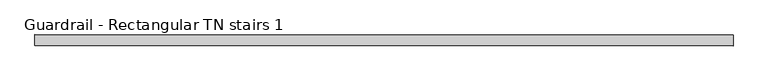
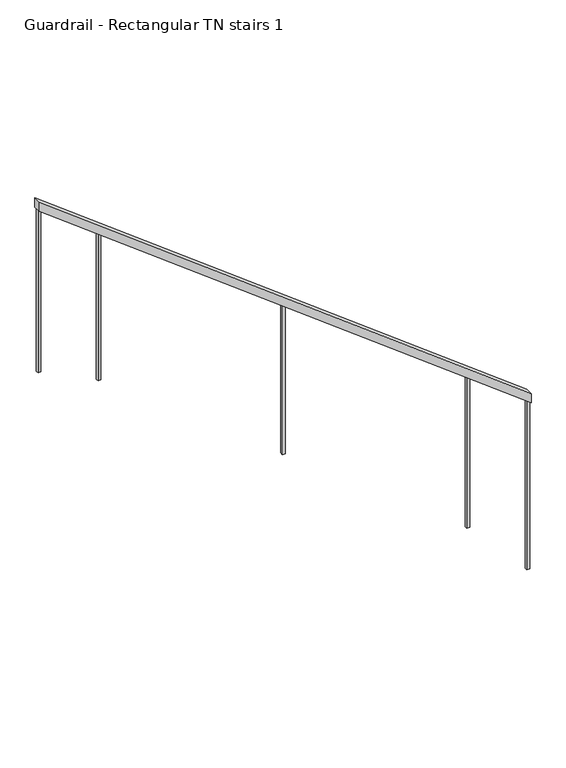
"""IFC4 building model written with IfcOpenShell, lengths in millimetres: railing geometry, Guardrail - Rectangular TN stairs 1."""

from ifc_helpers import new_model, si_unit, frame, origin, place, context, project, spatial, polyline, outline, extrude, source, transform, mapped, element, save


def guardrail_rectangular_tn_stairs_1_c1588243(model_context):
    return source(origin(), model_context, "Body", "SweptSolid", [
        extrude(outline(polyline([(3788.7047619, -83.7239276), (3724.8400722, -83.7239276), (1286.7448341, 3116.2760724), (1350.6095238, 3116.2760724), (3788.7047619, -83.7239276)])), frame((0.0, -13907.6966791, 0.0), z_axis=(0.0, 1.0, 0.0), x_axis=(0.0, 0.0, 1.0)), (0.0, 0.0, 1.0), 50.8),
        extrude(outline(polyline([(1584.249596, 2725.8010724), (1598.7638817, 2706.7510724), (557.1428571, 2706.7510724), (557.1428571, 2725.8010724), (1584.249596, 2725.8010724)])), frame((0.0, -13891.8216791, 0.0), z_axis=(0.0, 1.0, 0.0), x_axis=(0.0, 0.0, 1.0)), (0.0, 0.0, 1.0), 19.05),
        extrude(outline(polyline([(2498.5353103, 1525.8010724), (2513.049596, 1506.7510724), (1485.7142857, 1506.7510724), (1485.7142857, 1525.8010724), (2498.5353103, 1525.8010724)])), frame((0.0, -13891.8216791, 0.0), z_axis=(0.0, 1.0, 0.0), x_axis=(0.0, 0.0, 1.0)), (0.0, 0.0, 1.0), 19.05),
        extrude(outline(polyline([(3412.8210246, 325.8010724), (3427.3353103, 306.7510724), (2414.2857143, 306.7510724), (2414.2857143, 325.8010724), (3412.8210246, 325.8010724)])), frame((0.0, -13891.8216791, 0.0), z_axis=(0.0, 1.0, 0.0), x_axis=(0.0, 0.0, 1.0)), (0.0, 0.0, 1.0), 19.05),
        extrude(outline(polyline([(1286.7257865, 3116.3010724), (1301.2400722, 3097.2510724), (135.7142857, 3097.2510724), (135.7142857, 3116.3010724), (1286.7257865, 3116.3010724)])), frame((0.0, -13891.8216791, 0.0), z_axis=(0.0, 1.0, 0.0), x_axis=(0.0, 0.0, 1.0)), (0.0, 0.0, 1.0), 19.05),
        extrude(outline(polyline([(3710.3448341, -64.6989276), (3724.8591198, -83.7489276), (2604.6666667, -83.7489276), (2604.6666667, -64.6989276), (3710.3448341, -64.6989276)])), frame((0.0, -13891.8216791, 0.0), z_axis=(0.0, 1.0, 0.0), x_axis=(0.0, 0.0, 1.0)), (0.0, 0.0, 1.0), 19.05),
    ])


if __name__ == "__main__":
    model = new_model("IFC4")
    model_context = context("Model", 3, world=origin())
    ifc_project = project(units=[si_unit("LENGTHUNIT", "METRE", prefix="MILLI")], contexts=[model_context])
    site = spatial("IfcSite", under=ifc_project)
    building = spatial("IfcBuilding", under=site)
    placement = place(None, origin())
    guardrail_rectangular_tn_stairs_1_shape = guardrail_rectangular_tn_stairs_1_c1588243(model_context)
    element("IfcRailing", 1, ObjectType="Guardrail - Rectangular TN stairs 1", at=placement, inside=building, context=model_context, shape_type="MappedRepresentation", body=[
        mapped(guardrail_rectangular_tn_stairs_1_shape, transform((0.0, 0.0, 0.0), x_axis=(1.0, 0.0, 0.0), y_axis=(0.0, 1.0, 0.0), z_axis=(0.0, 0.0, 1.0))),
    ])
    save(model, "model.ifc")
